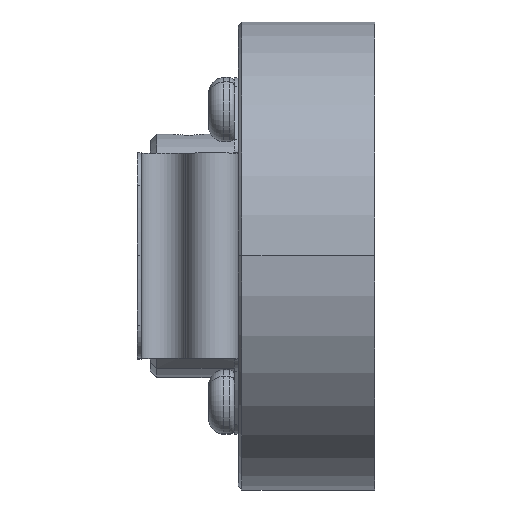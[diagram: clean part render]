
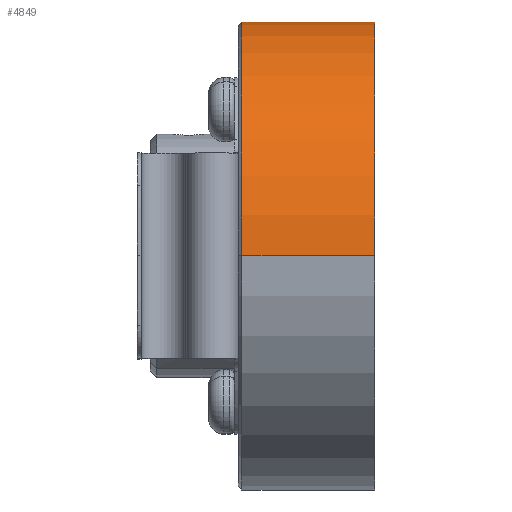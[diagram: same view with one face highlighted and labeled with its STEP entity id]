
A CAD part, top view. The second image highlights one B-rep face of the part: STEP entity #4849.
In plain terms, the highlighted cylindrical face has radius 18.25 mm (diameter 36.5 mm), a partial arc.
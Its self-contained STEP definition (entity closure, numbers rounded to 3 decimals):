
#230 = CIRCLE ( 'NONE', #7223, 18.25 ) ;
#1180 = CARTESIAN_POINT ( 'NONE',  ( -1.3, 0., 18.25 ) ) ;
#1212 = AXIS2_PLACEMENT_3D ( 'NONE', #14035, #15387, #2198 ) ;
#1410 = LINE ( 'NONE', #17269, #14717 ) ;
#1734 = AXIS2_PLACEMENT_3D ( 'NONE', #16741, #8789, #14065 ) ;
#2198 = DIRECTION ( 'NONE',  ( 0., 0., 1. ) ) ;
#2368 = DIRECTION ( 'NONE',  ( -1., 0., 0. ) ) ;
#3428 = CARTESIAN_POINT ( 'NONE',  ( -11.65, 0., 18.25 ) ) ;
#3550 = LINE ( 'NONE', #7913, #5647 ) ;
#4516 = VERTEX_POINT ( 'NONE', #3428 ) ;
#4849 = ADVANCED_FACE ( 'NONE', ( #9894 ), #5551, .T. ) ;
#5008 = VERTEX_POINT ( 'NONE', #10212 ) ;
#5077 = DIRECTION ( 'NONE',  ( -1., 0., 0. ) ) ;
#5551 = CYLINDRICAL_SURFACE ( 'NONE', #1212, 18.25 ) ;
#5647 = VECTOR ( 'NONE', #10504, 1000. ) ;
#6019 = ORIENTED_EDGE ( 'NONE', *, *, #8506, .T. ) ;
#6348 = ORIENTED_EDGE ( 'NONE', *, *, #12430, .T. ) ;
#6737 = EDGE_CURVE ( 'NONE', #5008, #4516, #12344, .T. ) ;
#7016 = VERTEX_POINT ( 'NONE', #13545 ) ;
#7138 = EDGE_LOOP ( 'NONE', ( #6019, #6348, #14598, #13564 ) ) ;
#7223 = AXIS2_PLACEMENT_3D ( 'NONE', #10289, #2368, #11660 ) ;
#7913 = CARTESIAN_POINT ( 'NONE',  ( -1000., 0., -18.25 ) ) ;
#8506 = EDGE_CURVE ( 'NONE', #15389, #7016, #230, .T. ) ;
#8789 = DIRECTION ( 'NONE',  ( 1., 0., 0. ) ) ;
#9894 = FACE_OUTER_BOUND ( 'NONE', #7138, .T. ) ;
#10212 = CARTESIAN_POINT ( 'NONE',  ( -11.65, 0., -18.25 ) ) ;
#10289 = CARTESIAN_POINT ( 'NONE',  ( -1.3, 0., 0. ) ) ;
#10504 = DIRECTION ( 'NONE',  ( -1., 0., 0. ) ) ;
#10610 = EDGE_CURVE ( 'NONE', #15389, #4516, #1410, .T. ) ;
#11660 = DIRECTION ( 'NONE',  ( 0., 0., 1. ) ) ;
#12344 = CIRCLE ( 'NONE', #1734, 18.25 ) ;
#12430 = EDGE_CURVE ( 'NONE', #7016, #5008, #3550, .T. ) ;
#13545 = CARTESIAN_POINT ( 'NONE',  ( -1.3, 0., -18.25 ) ) ;
#13564 = ORIENTED_EDGE ( 'NONE', *, *, #10610, .F. ) ;
#14035 = CARTESIAN_POINT ( 'NONE',  ( -1000., 0., 0. ) ) ;
#14065 = DIRECTION ( 'NONE',  ( 0., 0., 1. ) ) ;
#14598 = ORIENTED_EDGE ( 'NONE', *, *, #6737, .T. ) ;
#14717 = VECTOR ( 'NONE', #5077, 1000. ) ;
#15387 = DIRECTION ( 'NONE',  ( -1., 0., 0. ) ) ;
#15389 = VERTEX_POINT ( 'NONE', #1180 ) ;
#16741 = CARTESIAN_POINT ( 'NONE',  ( -11.65, 0., 0. ) ) ;
#17269 = CARTESIAN_POINT ( 'NONE',  ( -1000., 0., 18.25 ) ) ;
